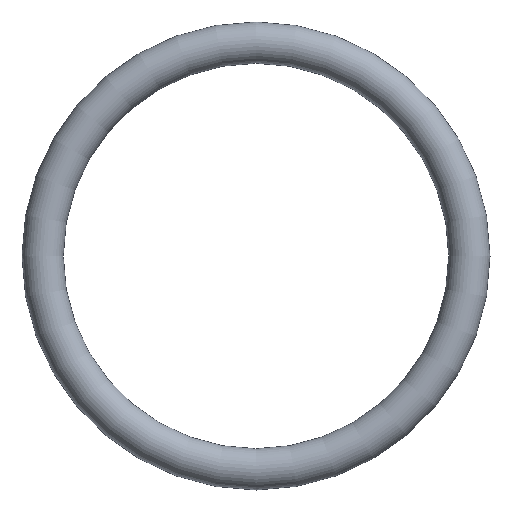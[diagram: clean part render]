
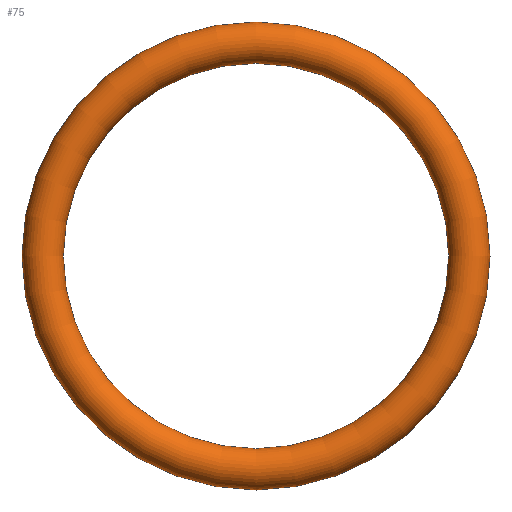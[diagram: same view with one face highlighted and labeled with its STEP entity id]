
A CAD part, front view. The second image highlights one B-rep face of the part: STEP entity #75.
In plain terms, the highlighted toroidal (fillet/blend) face has major radius 7.75 mm and minor radius 0.75 mm.
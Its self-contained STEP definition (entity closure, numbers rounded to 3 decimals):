
#75 = ADVANCED_FACE( '', ( #77 ), #78, .T. );
#77 = FACE_BOUND( '', #79, .T. );
#78 = TOROIDAL_SURFACE( '', #80, 7.75, 0.75 );
#79 = VERTEX_LOOP( '', #81 );
#80 = AXIS2_PLACEMENT_3D( '', #82, #83, #84 );
#81 = VERTEX_POINT( '', #85 );
#82 = CARTESIAN_POINT( '', ( 0., 0., 0. ) );
#83 = DIRECTION( '', ( 0., -1., 0. ) );
#84 = DIRECTION( '', ( 0., 0., -1. ) );
#85 = CARTESIAN_POINT( '', ( 0., 0., -8.5 ) );
